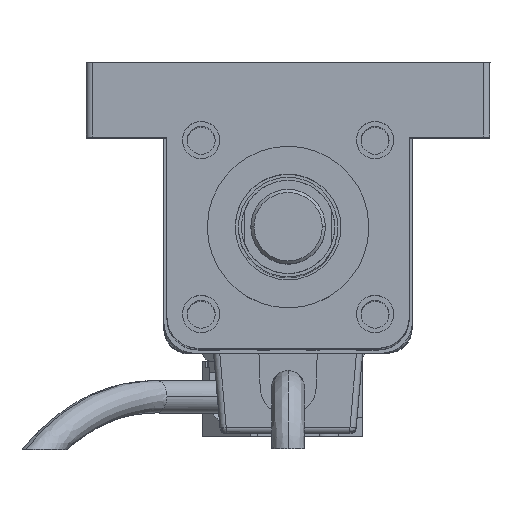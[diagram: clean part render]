
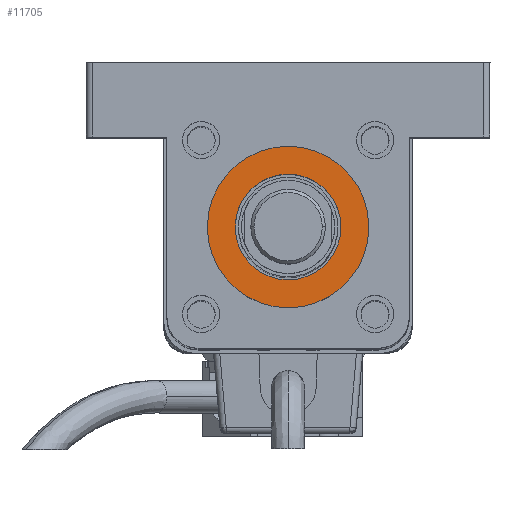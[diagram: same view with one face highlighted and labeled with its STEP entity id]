
A CAD part, top view. The second image highlights one B-rep face of the part: STEP entity #11705.
In plain terms, the highlighted planar face has unit normal (0, 0, 1) as drawn and (0, 0, -1) by its records, which use the part's own axes.
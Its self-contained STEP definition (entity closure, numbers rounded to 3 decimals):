
#2311 = DIRECTION ( 'NONE',  ( 0., 0., -1. ) ) ;
#3053 = CARTESIAN_POINT ( 'NONE',  ( 28., -19.5, -3. ) ) ;
#3650 = DIRECTION ( 'NONE',  ( 0., 0., -1. ) ) ;
#5437 = ORIENTED_EDGE ( 'NONE', *, *, #16560, .T. ) ;
#7029 = FACE_BOUND ( 'NONE', #13795, .T. ) ;
#8242 = CARTESIAN_POINT ( 'NONE',  ( 6.5, -19.5, -3. ) ) ;
#9078 = DIRECTION ( 'NONE',  ( -1., 0., 0. ) ) ;
#9126 = VERTEX_POINT ( 'NONE', #3053 ) ;
#9295 = CARTESIAN_POINT ( 'NONE',  ( 19.5, -19.5, -3. ) ) ;
#9432 = DIRECTION ( 'NONE',  ( 0., 0., -1. ) ) ;
#10128 = DIRECTION ( 'NONE',  ( -1., 0., 0. ) ) ;
#10150 = AXIS2_PLACEMENT_3D ( 'NONE', #23703, #3650, #10128 ) ;
#10555 = VERTEX_POINT ( 'NONE', #8242 ) ;
#10716 = ORIENTED_EDGE ( 'NONE', *, *, #12269, .T. ) ;
#11607 = EDGE_CURVE ( 'NONE', #9126, #12469, #26493, .T. ) ;
#11705 = ADVANCED_FACE ( 'NONE', ( #7029, #28592 ), #12111, .T. ) ;
#11786 = AXIS2_PLACEMENT_3D ( 'NONE', #22995, #9432, #16471 ) ;
#12111 = PLANE ( 'NONE',  #11786 ) ;
#12269 = EDGE_CURVE ( 'NONE', #27672, #10555, #13396, .T. ) ;
#12469 = VERTEX_POINT ( 'NONE', #24053 ) ;
#13396 = CIRCLE ( 'NONE', #14661, 13. ) ;
#13795 = EDGE_LOOP ( 'NONE', ( #14274, #17886 ) ) ;
#13858 = DIRECTION ( 'NONE',  ( 0., 0., -1. ) ) ;
#13893 = CARTESIAN_POINT ( 'NONE',  ( 19.5, -19.5, -3. ) ) ;
#14274 = ORIENTED_EDGE ( 'NONE', *, *, #15303, .F. ) ;
#14661 = AXIS2_PLACEMENT_3D ( 'NONE', #9295, #13858, #16138 ) ;
#15303 = EDGE_CURVE ( 'NONE', #12469, #9126, #20328, .T. ) ;
#16138 = DIRECTION ( 'NONE',  ( -1., 0., 0. ) ) ;
#16471 = DIRECTION ( 'NONE',  ( -1., 0., 0. ) ) ;
#16560 = EDGE_CURVE ( 'NONE', #10555, #27672, #18864, .T. ) ;
#17630 = AXIS2_PLACEMENT_3D ( 'NONE', #13893, #18252, #27434 ) ;
#17886 = ORIENTED_EDGE ( 'NONE', *, *, #11607, .F. ) ;
#18252 = DIRECTION ( 'NONE',  ( 0., 0., -1. ) ) ;
#18864 = CIRCLE ( 'NONE', #22669, 13. ) ;
#20328 = CIRCLE ( 'NONE', #10150, 8.5 ) ;
#22669 = AXIS2_PLACEMENT_3D ( 'NONE', #24830, #2311, #9078 ) ;
#22995 = CARTESIAN_POINT ( 'NONE',  ( 19.5, -19.5, -3. ) ) ;
#23377 = CARTESIAN_POINT ( 'NONE',  ( 32.5, -19.5, -3. ) ) ;
#23703 = CARTESIAN_POINT ( 'NONE',  ( 19.5, -19.5, -3. ) ) ;
#24053 = CARTESIAN_POINT ( 'NONE',  ( 11., -19.5, -3. ) ) ;
#24426 = EDGE_LOOP ( 'NONE', ( #10716, #5437 ) ) ;
#24830 = CARTESIAN_POINT ( 'NONE',  ( 19.5, -19.5, -3. ) ) ;
#26493 = CIRCLE ( 'NONE', #17630, 8.5 ) ;
#27434 = DIRECTION ( 'NONE',  ( -1., 0., 0. ) ) ;
#27672 = VERTEX_POINT ( 'NONE', #23377 ) ;
#28592 = FACE_OUTER_BOUND ( 'NONE', #24426, .T. ) ;
